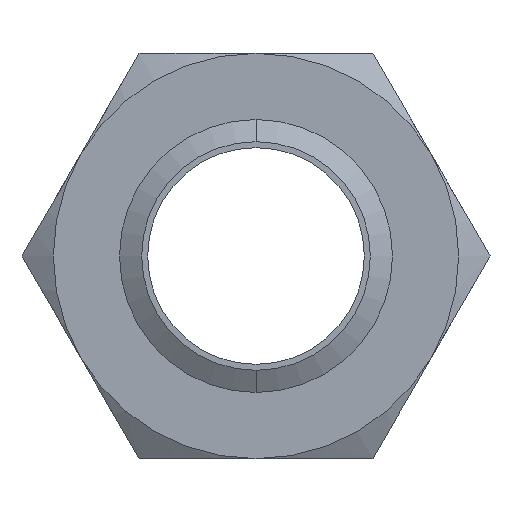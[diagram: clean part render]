
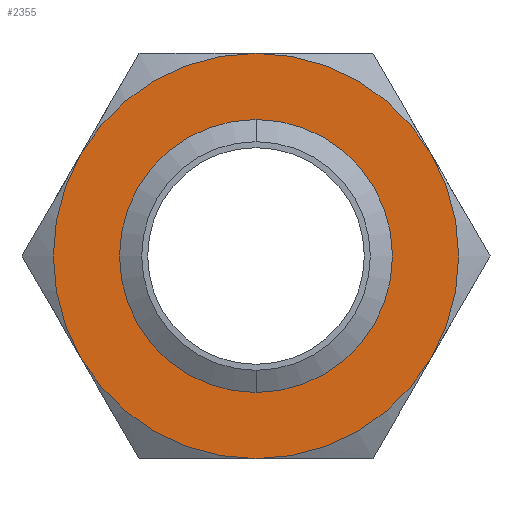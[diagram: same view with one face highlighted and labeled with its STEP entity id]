
A CAD part, front view. The second image highlights one B-rep face of the part: STEP entity #2355.
In plain terms, the highlighted planar face has unit normal (0, -1, 0).
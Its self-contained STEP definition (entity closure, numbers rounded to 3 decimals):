
#3 = EDGE_LOOP ( 'NONE', ( #4, #52 ) ) ;
#4 = ORIENTED_EDGE ( 'NONE', *, *, #323, .F. ) ;
#51 = EDGE_CURVE ( 'NONE', #369, #324, #553, .T. ) ;
#52 = ORIENTED_EDGE ( 'NONE', *, *, #51, .F. ) ;
#323 = EDGE_CURVE ( 'NONE', #324, #369, #1010, .T. ) ;
#324 = VERTEX_POINT ( 'NONE', #1000 ) ;
#369 = VERTEX_POINT ( 'NONE', #1108 ) ;
#549 = DIRECTION ( 'NONE',  ( 0., 0., -1. ) ) ;
#550 = DIRECTION ( 'NONE',  ( 0., -1., 0. ) ) ;
#551 = CARTESIAN_POINT ( 'NONE',  ( 0., 0., 0. ) ) ;
#552 = AXIS2_PLACEMENT_3D ( 'NONE', #551, #550, #549 ) ;
#553 = CIRCLE ( 'NONE', #552, 26.804 ) ;
#1000 = CARTESIAN_POINT ( 'NONE',  ( 0., 0., -26.804 ) ) ;
#1001 = DIRECTION ( 'NONE',  ( 0., 0., -1. ) ) ;
#1002 = DIRECTION ( 'NONE',  ( 0., -1., 0. ) ) ;
#1003 = CARTESIAN_POINT ( 'NONE',  ( 0., 0., 0. ) ) ;
#1004 = AXIS2_PLACEMENT_3D ( 'NONE', #1003, #1002, #1001 ) ;
#1010 = CIRCLE ( 'NONE', #1004, 26.804 ) ;
#1108 = CARTESIAN_POINT ( 'NONE',  ( 0., 0., 26.804 ) ) ;
#1145 = DIRECTION ( 'NONE',  ( 0., 1., 0. ) ) ;
#1146 = CARTESIAN_POINT ( 'NONE',  ( 0., 0., 0. ) ) ;
#1398 = DIRECTION ( 'NONE',  ( 0., 0., 1. ) ) ;
#1460 = DIRECTION ( 'NONE',  ( 0., 0., 1. ) ) ;
#1461 = DIRECTION ( 'NONE',  ( 0., 1., 0. ) ) ;
#1462 = CARTESIAN_POINT ( 'NONE',  ( 0., 0., 0. ) ) ;
#1463 = AXIS2_PLACEMENT_3D ( 'NONE', #1462, #1461, #1460 ) ;
#1464 = CIRCLE ( 'NONE', #1463, 47.5 ) ;
#1471 = DIRECTION ( 'NONE',  ( 0., 0., 1. ) ) ;
#1472 = DIRECTION ( 'NONE',  ( 0., 1., 0. ) ) ;
#1473 = CARTESIAN_POINT ( 'NONE',  ( 0., 0., 0. ) ) ;
#1474 = AXIS2_PLACEMENT_3D ( 'NONE', #1473, #1472, #1471 ) ;
#1475 = CIRCLE ( 'NONE', #1474, 47.5 ) ;
#1476 = CARTESIAN_POINT ( 'NONE',  ( 0., 0., -47.5 ) ) ;
#1482 = CARTESIAN_POINT ( 'NONE',  ( 41.136, 0., -23.75 ) ) ;
#1500 = DIRECTION ( 'NONE',  ( 0., 0., 1. ) ) ;
#1501 = DIRECTION ( 'NONE',  ( 0., 1., 0. ) ) ;
#1502 = CARTESIAN_POINT ( 'NONE',  ( 0., 0., 0. ) ) ;
#1503 = AXIS2_PLACEMENT_3D ( 'NONE', #1502, #1501, #1500 ) ;
#1504 = CIRCLE ( 'NONE', #1503, 47.5 ) ;
#1632 = CIRCLE ( 'NONE', #1880, 47.5 ) ;
#1633 = CARTESIAN_POINT ( 'NONE',  ( 41.136, 0., 23.75 ) ) ;
#1634 = CARTESIAN_POINT ( 'NONE',  ( -41.136, 0., 23.75 ) ) ;
#1832 = CARTESIAN_POINT ( 'NONE',  ( -41.136, 0., -23.75 ) ) ;
#1833 = CARTESIAN_POINT ( 'NONE',  ( 0., 0., 47.5 ) ) ;
#1878 = AXIS2_PLACEMENT_3D ( 'NONE', #1146, #1145, #1398 ) ;
#1879 = CIRCLE ( 'NONE', #1878, 47.5 ) ;
#1880 = AXIS2_PLACEMENT_3D ( 'NONE', #2134, #2135, #2133 ) ;
#1881 = DIRECTION ( 'NONE',  ( 0., 0., 1. ) ) ;
#1882 = DIRECTION ( 'NONE',  ( 0., 1., 0. ) ) ;
#1883 = CARTESIAN_POINT ( 'NONE',  ( 0., 0., 0. ) ) ;
#1884 = AXIS2_PLACEMENT_3D ( 'NONE', #1883, #1882, #1881 ) ;
#1890 = CIRCLE ( 'NONE', #1884, 47.5 ) ;
#1923 = DIRECTION ( 'NONE',  ( 0., 0., 1. ) ) ;
#1924 = DIRECTION ( 'NONE',  ( 0., 1., 0. ) ) ;
#1925 = CARTESIAN_POINT ( 'NONE',  ( 27.424, 0., -47.5 ) ) ;
#1926 = AXIS2_PLACEMENT_3D ( 'NONE', #1925, #1924, #1923 ) ;
#1927 = PLANE ( 'NONE',  #1926 ) ;
#1928 = FACE_BOUND ( 'NONE', #3, .T. ) ;
#1929 = FACE_OUTER_BOUND ( 'NONE', #2305, .T. ) ;
#2133 = DIRECTION ( 'NONE',  ( 0., 0., 1. ) ) ;
#2134 = CARTESIAN_POINT ( 'NONE',  ( 0., 0., 0. ) ) ;
#2135 = DIRECTION ( 'NONE',  ( 0., 1., 0. ) ) ;
#2195 = VERTEX_POINT ( 'NONE', #1482 ) ;
#2196 = VERTEX_POINT ( 'NONE', #1476 ) ;
#2197 = ORIENTED_EDGE ( 'NONE', *, *, #2198, .F. ) ;
#2198 = EDGE_CURVE ( 'NONE', #2344, #2195, #1475, .T. ) ;
#2199 = ORIENTED_EDGE ( 'NONE', *, *, #2202, .F. ) ;
#2202 = EDGE_CURVE ( 'NONE', #2195, #2196, #1464, .T. ) ;
#2211 = EDGE_CURVE ( 'NONE', #2196, #2306, #1504, .T. ) ;
#2301 = ORIENTED_EDGE ( 'NONE', *, *, #2211, .F. ) ;
#2304 = VERTEX_POINT ( 'NONE', #1833 ) ;
#2305 = EDGE_LOOP ( 'NONE', ( #2346, #2341, #2345, #2301, #2199, #2197 ) ) ;
#2306 = VERTEX_POINT ( 'NONE', #1832 ) ;
#2340 = EDGE_CURVE ( 'NONE', #2306, #2343, #1890, .T. ) ;
#2341 = ORIENTED_EDGE ( 'NONE', *, *, #2342, .F. ) ;
#2342 = EDGE_CURVE ( 'NONE', #2343, #2304, #1879, .T. ) ;
#2343 = VERTEX_POINT ( 'NONE', #1634 ) ;
#2344 = VERTEX_POINT ( 'NONE', #1633 ) ;
#2345 = ORIENTED_EDGE ( 'NONE', *, *, #2340, .F. ) ;
#2346 = ORIENTED_EDGE ( 'NONE', *, *, #2347, .F. ) ;
#2347 = EDGE_CURVE ( 'NONE', #2304, #2344, #1632, .T. ) ;
#2355 = ADVANCED_FACE ( 'NONE', ( #1929, #1928 ), #1927, .F. ) ;
